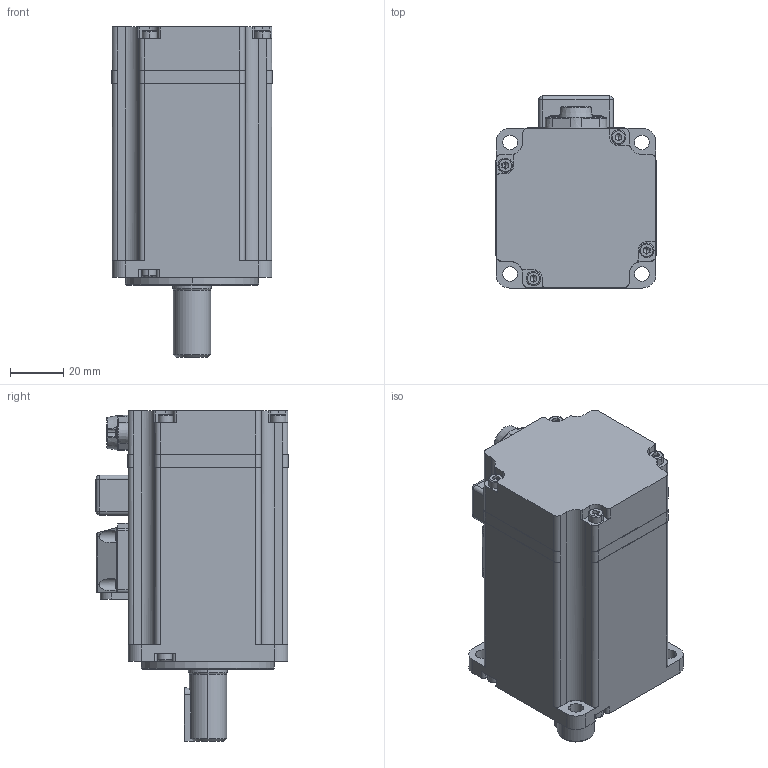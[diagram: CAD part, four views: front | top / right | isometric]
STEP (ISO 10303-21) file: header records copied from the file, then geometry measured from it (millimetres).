
FILE_DESCRIPTION((''),'2;1');
FILE_NAME('R-02E1K3A0_ASM_ASM','2021-06-15T',('lisy41'),(''),'CREO PARAMETRIC BY PTC INC, 2015480','CREO PARAMETRIC BY PTC INC, 2015480','');
FILE_SCHEMA(('CONFIG_CONTROL_DESIGN'));
Length unit declared in the file: millimetre
Products named in the file (1): R-02E1K3A0_ASM_ASM
Bounding box: 60.2 x 72.2 x 124.2 mm (x, y, z)
Volume: 325368 mm3; surface area: 38304.7 mm2
Topology: 1 solids, 34 shells, 957 faces, 2394 edges, 1505 vertices
Faces by surface type: plane 487, cylinder 317, cone 89, torus 40, sphere 16, bspline 8
Entity records: 29273 total; most frequent: CARTESIAN_POINT 6109, DIRECTION 5061, ORIENTED_EDGE 4688, EDGE_CURVE 2344, AXIS2_PLACEMENT_3D 1943, VERTEX_POINT 1505, VECTOR 1175, LINE 1175
